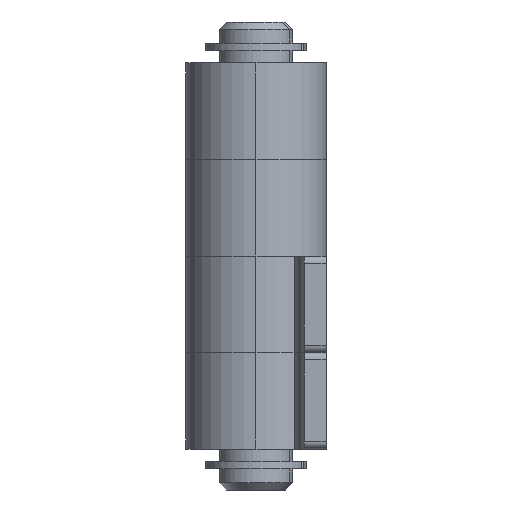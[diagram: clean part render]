
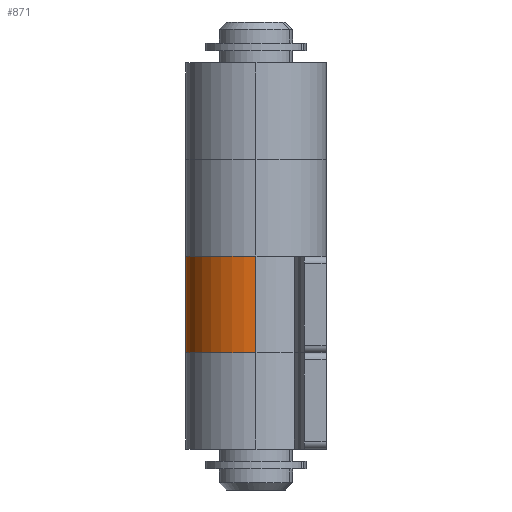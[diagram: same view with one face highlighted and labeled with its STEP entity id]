
A CAD part, left-side view. The second image highlights one B-rep face of the part: STEP entity #871.
In plain terms, the highlighted cylindrical face has radius 4.8 mm (diameter 9.6 mm), a partial arc.
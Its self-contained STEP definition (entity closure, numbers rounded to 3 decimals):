
#4 = DIRECTION ( 'NONE',  ( 0., 0., -1. ) ) ;
#82 = FACE_OUTER_BOUND ( 'NONE', #1595, .T. ) ;
#145 = VERTEX_POINT ( 'NONE', #2226 ) ;
#212 = ORIENTED_EDGE ( 'NONE', *, *, #1145, .F. ) ;
#275 = ORIENTED_EDGE ( 'NONE', *, *, #1551, .T. ) ;
#351 = EDGE_CURVE ( 'NONE', #791, #1873, #1450, .T. ) ;
#432 = DIRECTION ( 'NONE',  ( -0.593, -0.805, 0. ) ) ;
#453 = CARTESIAN_POINT ( 'NONE',  ( -4.8, 0., 3.3 ) ) ;
#515 = EDGE_CURVE ( 'NONE', #145, #1873, #1742, .T. ) ;
#749 = DIRECTION ( 'NONE',  ( 0., 0., -1. ) ) ;
#770 = CARTESIAN_POINT ( 'NONE',  ( 0., 0., -3.3 ) ) ;
#773 = CYLINDRICAL_SURFACE ( 'NONE', #1815, 4.8 ) ;
#791 = VERTEX_POINT ( 'NONE', #1198 ) ;
#815 = ORIENTED_EDGE ( 'NONE', *, *, #351, .T. ) ;
#871 = ADVANCED_FACE ( 'NONE', ( #82 ), #773, .T. ) ;
#907 = CARTESIAN_POINT ( 'NONE',  ( 0., 0., 0. ) ) ;
#911 = VERTEX_POINT ( 'NONE', #453 ) ;
#924 = CIRCLE ( 'NONE', #1957, 4.8 ) ;
#1078 = AXIS2_PLACEMENT_3D ( 'NONE', #770, #1987, #432 ) ;
#1082 = DIRECTION ( 'NONE',  ( 0., 0., -1. ) ) ;
#1132 = CARTESIAN_POINT ( 'NONE',  ( 0., 0., 3.3 ) ) ;
#1145 = EDGE_CURVE ( 'NONE', #911, #145, #2108, .T. ) ;
#1198 = CARTESIAN_POINT ( 'NONE',  ( 4.8, 0., 3.3 ) ) ;
#1232 = DIRECTION ( 'NONE',  ( -0.593, -0.805, 0. ) ) ;
#1269 = CARTESIAN_POINT ( 'NONE',  ( 4.8, 0., 0. ) ) ;
#1371 = VECTOR ( 'NONE', #4, 1000. ) ;
#1450 = LINE ( 'NONE', #1269, #1504 ) ;
#1504 = VECTOR ( 'NONE', #749, 1000. ) ;
#1551 = EDGE_CURVE ( 'NONE', #911, #791, #924, .T. ) ;
#1595 = EDGE_LOOP ( 'NONE', ( #275, #815, #1860, #212 ) ) ;
#1726 = CARTESIAN_POINT ( 'NONE',  ( -4.8, 0., 0. ) ) ;
#1742 = CIRCLE ( 'NONE', #1078, 4.8 ) ;
#1786 = DIRECTION ( 'NONE',  ( -1., 0., 0. ) ) ;
#1815 = AXIS2_PLACEMENT_3D ( 'NONE', #907, #1082, #1786 ) ;
#1860 = ORIENTED_EDGE ( 'NONE', *, *, #515, .F. ) ;
#1873 = VERTEX_POINT ( 'NONE', #2227 ) ;
#1957 = AXIS2_PLACEMENT_3D ( 'NONE', #1132, #2167, #1232 ) ;
#1987 = DIRECTION ( 'NONE',  ( 0., 0., -1. ) ) ;
#2108 = LINE ( 'NONE', #1726, #1371 ) ;
#2167 = DIRECTION ( 'NONE',  ( 0., 0., -1. ) ) ;
#2226 = CARTESIAN_POINT ( 'NONE',  ( -4.8, 0., -3.3 ) ) ;
#2227 = CARTESIAN_POINT ( 'NONE',  ( 4.8, 0., -3.3 ) ) ;
